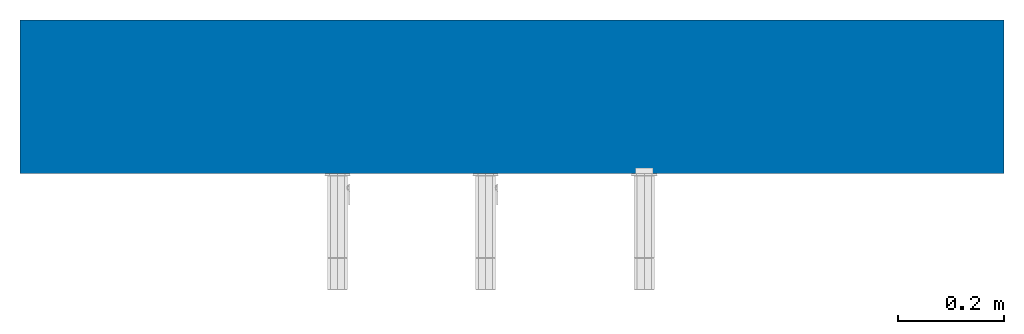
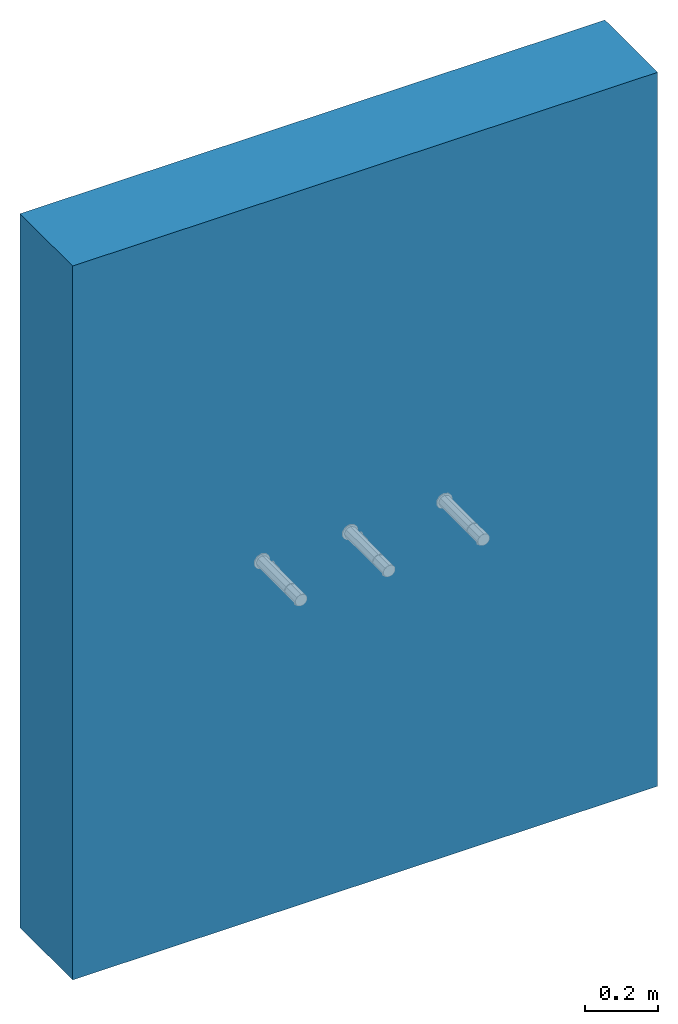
# One storey, incomplete: 1 wall.
"""IFC2X3 building model written with IfcOpenShell, lengths in millimetres."""

from ifc_helpers import new_model, entity, si_unit, converted_unit, derived_unit, direction, frame, frame_2d, origin, place, context, subcontext, project, spatial, rectangle, extrude, material, layer, layer_set, layer_usage, type_object, element, save


model = new_model("IFC2X3")

# Units and contexts
model_context = context("Model", 3, precision=0.01, world=origin(), true_north=direction((6.12303176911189e-17, 1.0)))
context_of_model = context(None, 3, precision=0.01, world=origin(), true_north=direction((6.12303176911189e-17, 1.0)))
body_context = subcontext(model_context, "Body", "Model", "MODEL_VIEW")
ifc_project = project(units=[si_unit("LENGTHUNIT", "METRE", prefix="MILLI"), si_unit("AREAUNIT", "SQUARE_METRE"), si_unit("VOLUMEUNIT", "CUBIC_METRE"), converted_unit("PLANEANGLEUNIT", "DEGREE", entity("IfcRatioMeasure", 0.0174532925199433), si_unit("PLANEANGLEUNIT", "RADIAN"), dimensions=[0, 0, 0, 0, 0, 0, 0]), si_unit("MASSUNIT", "GRAM", prefix="KILO"), si_unit("TIMEUNIT", "SECOND"), si_unit("FREQUENCYUNIT", "HERTZ"), si_unit("THERMODYNAMICTEMPERATUREUNIT", "DEGREE_CELSIUS"), derived_unit("THERMALTRANSMITTANCEUNIT", [(si_unit("MASSUNIT", "GRAM", prefix="KILO"), 1), (si_unit("THERMODYNAMICTEMPERATUREUNIT", "KELVIN"), -1), (si_unit("TIMEUNIT", "SECOND"), -3)]), derived_unit("VOLUMETRICFLOWRATEUNIT", [(si_unit("LENGTHUNIT", "METRE"), 3), (si_unit("TIMEUNIT", "SECOND"), -1)]), si_unit("ELECTRICCURRENTUNIT", "AMPERE"), si_unit("ELECTRICVOLTAGEUNIT", "VOLT"), si_unit("POWERUNIT", "WATT"), si_unit("FORCEUNIT", "NEWTON", prefix="KILO"), si_unit("ILLUMINANCEUNIT", "LUX"), si_unit("LUMINOUSFLUXUNIT", "LUMEN"), si_unit("LUMINOUSINTENSITYUNIT", "CANDELA"), si_unit("PRESSUREUNIT", "PASCAL")], contexts=[model_context, context_of_model])

# Site, building, storey
site_placement = place(None, origin())
site = spatial("IfcSite", under=ifc_project, at=site_placement, Name="Default", CompositionType="ELEMENT")
building_placement = place(site_placement, origin())
building = spatial("IfcBuilding", under=site, at=building_placement, CompositionType="ELEMENT")
storey_placement = place(building_placement, origin())
storey = spatial("IfcBuildingStorey", under=building, at=storey_placement, Name="Level 0", CompositionType="ELEMENT", Elevation=0.0)

# Wall
ifc_material_1 = material(Name="Brick, Common")
ifc_layer_1 = layer(ifc_material_1, 102.5)
ifc_material_2 = material(Name="Fiberglass Batt")
ifc_layer_2 = layer(ifc_material_2, 75.0)
ifc_material_3 = material(Name="Concrete Masonry Units _Low Density")
ifc_layer_3 = layer(ifc_material_3, 100.0)
ifc_material_4 = material(Name="Plaster")
ifc_layer_4 = layer(ifc_material_4, 12.5)
ifc_layer_set = layer_set([ifc_layer_1, ifc_layer_2, ifc_layer_3, ifc_layer_4], Name="Basic Wall:Wall-Ext_102Bwk-75Ins-100LBlk-12P")
ifc_layer_usage = layer_usage(ifc_layer_set, "AXIS2", "NEGATIVE", 145.0)
wall_type = type_object("IfcWallType", Name="Basic Wall:Wall-Ext_102Bwk-75Ins-100LBlk-12P", PredefinedType="STANDARD", material=ifc_layer_set)
wall_placement = place(storey_placement, frame((-2426.5489409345, -79.6235727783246, 0.0)))
element("IfcWallStandardCase", 1, at=wall_placement, inside=storey, type_object=wall_type, material=ifc_layer_usage, Name="Basic Wall:Wall-Ext_102Bwk-75Ins-100LBlk-12P", ObjectType="Basic Wall:Wall-Ext_102Bwk-75Ins-100LBlk-12P", context=body_context, shape_type="SweptSolid", body=[
    extrude(rectangle(XDim=1860.0, YDim=290.0, at=frame_2d((930.0, -1.4210854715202e-14), x_axis=(-1.0, 0.0))), origin(), (0.0, 0.0, 1.0), 2400.0),
])

save(model, "model.ifc")
